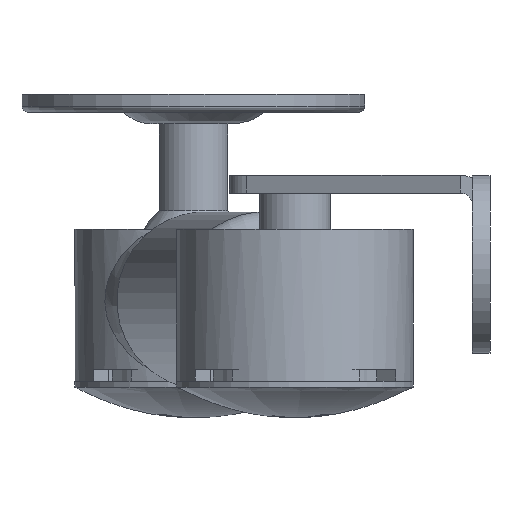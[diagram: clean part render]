
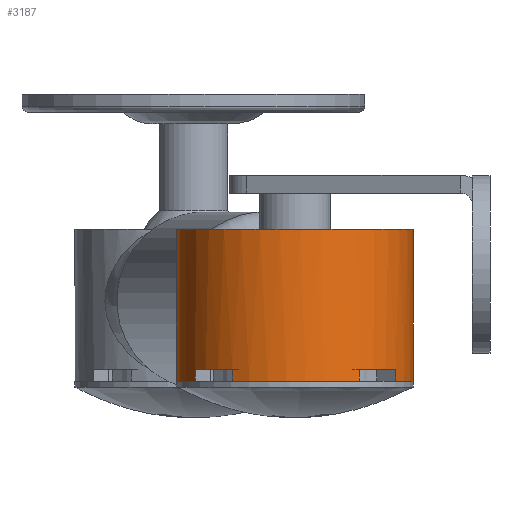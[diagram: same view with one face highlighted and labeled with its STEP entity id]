
A CAD part, front view. The second image highlights one B-rep face of the part: STEP entity #3187.
In plain terms, the highlighted cylindrical face has radius 10 mm (diameter 20 mm), a partial arc.
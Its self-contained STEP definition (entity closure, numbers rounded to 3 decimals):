
#360=FACE_OUTER_BOUND('',#564,.T.);
#564=EDGE_LOOP('',(#2786,#2787,#2788,#2789,#2790,#2791,#2792,#2793,#2794,
#2795,#2796,#2797,#2798,#2799,#2800,#2801,#2802,#2803,#2804,#2805));
#691=CIRCLE('',#3475,10.);
#692=CIRCLE('',#3480,10.);
#693=CIRCLE('',#3485,10.);
#694=CIRCLE('',#3490,10.);
#695=CIRCLE('',#3492,10.);
#696=CIRCLE('',#3493,10.);
#697=CIRCLE('',#3494,10.);
#698=CIRCLE('',#3495,10.);
#699=CIRCLE('',#3496,10.);
#702=CIRCLE('',#3503,10.);
#822=B_SPLINE_CURVE_WITH_KNOTS('',3,(#5758,#5759,#5760,#5761,#5762,#5763,
#5764,#5765,#5766,#5767,#5768,#5769,#5770,#5771,#5772,#5773,#5774,#5775,
#5776,#5777,#5778),.UNSPECIFIED.,.F.,.F.,(4,2,2,2,2,3,2,2,2,4),(-1.05,
-0.905,-0.62,-0.31,-0.155,
0.,0.155,0.31,0.62,0.804),
 .UNSPECIFIED.);
#823=B_SPLINE_CURVE_WITH_KNOTS('',3,(#5784,#5785,#5786,#5787,#5788,#5789,
#5790,#5791,#5792,#5793,#5794,#5795,#5796,#5797,#5798,#5799,#5800,#5801,
#5802,#5803),.UNSPECIFIED.,.F.,.F.,(4,2,2,2,2,2,2,2,2,4),(-3.184,
-3.,-2.69,-2.535,-2.38,
-2.225,-2.07,-1.76,-1.475,
-1.33),.UNSPECIFIED.);
#967=LINE('',#5888,#1207);
#971=LINE('',#5897,#1211);
#977=LINE('',#5911,#1217);
#981=LINE('',#5920,#1221);
#987=LINE('',#5934,#1227);
#991=LINE('',#5943,#1231);
#1000=LINE('',#5971,#1240);
#1003=LINE('',#5977,#1243);
#1207=VECTOR('',#4181,10.);
#1211=VECTOR('',#4187,10.);
#1217=VECTOR('',#4201,10.);
#1221=VECTOR('',#4207,10.);
#1227=VECTOR('',#4221,10.);
#1231=VECTOR('',#4227,10.);
#1240=VECTOR('',#4260,10.);
#1243=VECTOR('',#4265,10.);
#1502=VERTEX_POINT('',#5753);
#1503=VERTEX_POINT('',#5757);
#1504=VERTEX_POINT('',#5779);
#1505=VERTEX_POINT('',#5783);
#1523=VERTEX_POINT('',#5886);
#1524=VERTEX_POINT('',#5887);
#1527=VERTEX_POINT('',#5895);
#1528=VERTEX_POINT('',#5896);
#1531=VERTEX_POINT('',#5909);
#1532=VERTEX_POINT('',#5910);
#1535=VERTEX_POINT('',#5918);
#1536=VERTEX_POINT('',#5919);
#1539=VERTEX_POINT('',#5932);
#1540=VERTEX_POINT('',#5933);
#1543=VERTEX_POINT('',#5941);
#1544=VERTEX_POINT('',#5942);
#1547=VERTEX_POINT('',#5958);
#1550=VERTEX_POINT('',#5964);
#1551=VERTEX_POINT('',#5970);
#1553=VERTEX_POINT('',#5976);
#1887=EDGE_CURVE('',#1503,#1502,#822,.T.);
#1889=EDGE_CURVE('',#1505,#1504,#823,.T.);
#1930=EDGE_CURVE('',#1505,#1502,#691,.T.);
#1931=EDGE_CURVE('',#1523,#1524,#967,.T.);
#1935=EDGE_CURVE('',#1527,#1528,#971,.T.);
#1941=EDGE_CURVE('',#1528,#1523,#692,.T.);
#1942=EDGE_CURVE('',#1531,#1532,#977,.T.);
#1946=EDGE_CURVE('',#1535,#1536,#981,.T.);
#1952=EDGE_CURVE('',#1536,#1531,#693,.T.);
#1953=EDGE_CURVE('',#1539,#1540,#987,.T.);
#1957=EDGE_CURVE('',#1543,#1544,#991,.T.);
#1963=EDGE_CURVE('',#1544,#1539,#694,.T.);
#1964=EDGE_CURVE('',#1527,#1532,#695,.T.);
#1965=EDGE_CURVE('',#1535,#1540,#696,.T.);
#1966=EDGE_CURVE('',#1543,#1504,#697,.T.);
#1967=EDGE_CURVE('',#1503,#1547,#698,.T.);
#1971=EDGE_CURVE('',#1550,#1524,#699,.T.);
#1974=EDGE_CURVE('',#1551,#1547,#1000,.T.);
#1977=EDGE_CURVE('',#1550,#1553,#1003,.T.);
#1981=EDGE_CURVE('',#1553,#1551,#702,.T.);
#2786=ORIENTED_EDGE('',*,*,#1931,.T.);
#2787=ORIENTED_EDGE('',*,*,#1971,.F.);
#2788=ORIENTED_EDGE('',*,*,#1977,.T.);
#2789=ORIENTED_EDGE('',*,*,#1981,.T.);
#2790=ORIENTED_EDGE('',*,*,#1974,.T.);
#2791=ORIENTED_EDGE('',*,*,#1967,.F.);
#2792=ORIENTED_EDGE('',*,*,#1887,.T.);
#2793=ORIENTED_EDGE('',*,*,#1930,.F.);
#2794=ORIENTED_EDGE('',*,*,#1889,.T.);
#2795=ORIENTED_EDGE('',*,*,#1966,.F.);
#2796=ORIENTED_EDGE('',*,*,#1957,.T.);
#2797=ORIENTED_EDGE('',*,*,#1963,.T.);
#2798=ORIENTED_EDGE('',*,*,#1953,.T.);
#2799=ORIENTED_EDGE('',*,*,#1965,.F.);
#2800=ORIENTED_EDGE('',*,*,#1946,.T.);
#2801=ORIENTED_EDGE('',*,*,#1952,.T.);
#2802=ORIENTED_EDGE('',*,*,#1942,.T.);
#2803=ORIENTED_EDGE('',*,*,#1964,.F.);
#2804=ORIENTED_EDGE('',*,*,#1935,.T.);
#2805=ORIENTED_EDGE('',*,*,#1941,.T.);
#3028=CYLINDRICAL_SURFACE('',#3509,10.);
#3187=ADVANCED_FACE('',(#360),#3028,.T.);
#3475=AXIS2_PLACEMENT_3D('',#5884,#4177,#4178);
#3480=AXIS2_PLACEMENT_3D('',#5907,#4197,#4198);
#3485=AXIS2_PLACEMENT_3D('',#5930,#4217,#4218);
#3490=AXIS2_PLACEMENT_3D('',#5953,#4237,#4238);
#3492=AXIS2_PLACEMENT_3D('',#5955,#4241,#4242);
#3493=AXIS2_PLACEMENT_3D('',#5956,#4243,#4244);
#3494=AXIS2_PLACEMENT_3D('',#5957,#4245,#4246);
#3495=AXIS2_PLACEMENT_3D('',#5959,#4247,#4248);
#3496=AXIS2_PLACEMENT_3D('',#5966,#4252,#4253);
#3503=AXIS2_PLACEMENT_3D('',#5984,#4273,#4274);
#3509=AXIS2_PLACEMENT_3D('',#5991,#4285,#4286);
#4177=DIRECTION('center_axis',(0.,1.,0.));
#4178=DIRECTION('ref_axis',(1.,0.,0.));
#4181=DIRECTION('',(0.,-1.,0.));
#4187=DIRECTION('',(0.,1.,0.));
#4197=DIRECTION('center_axis',(0.,1.,0.));
#4198=DIRECTION('ref_axis',(1.,0.,0.));
#4201=DIRECTION('',(0.,-1.,0.));
#4207=DIRECTION('',(0.,1.,0.));
#4217=DIRECTION('center_axis',(0.,1.,0.));
#4218=DIRECTION('ref_axis',(1.,0.,0.));
#4221=DIRECTION('',(0.,-1.,0.));
#4227=DIRECTION('',(0.,1.,0.));
#4237=DIRECTION('center_axis',(0.,1.,0.));
#4238=DIRECTION('ref_axis',(1.,0.,0.));
#4241=DIRECTION('center_axis',(0.,-1.,0.));
#4242=DIRECTION('ref_axis',(1.,0.,0.));
#4243=DIRECTION('center_axis',(0.,-1.,0.));
#4244=DIRECTION('ref_axis',(1.,0.,0.));
#4245=DIRECTION('center_axis',(0.,-1.,0.));
#4246=DIRECTION('ref_axis',(1.,0.,0.));
#4247=DIRECTION('center_axis',(0.,-1.,0.));
#4248=DIRECTION('ref_axis',(1.,0.,0.));
#4252=DIRECTION('center_axis',(0.,-1.,0.));
#4253=DIRECTION('ref_axis',(1.,0.,0.));
#4260=DIRECTION('',(0.,-1.,0.));
#4265=DIRECTION('',(0.,1.,0.));
#4273=DIRECTION('center_axis',(0.,1.,0.));
#4274=DIRECTION('ref_axis',(1.,0.,0.));
#4285=DIRECTION('center_axis',(0.,1.,0.));
#4286=DIRECTION('ref_axis',(1.,0.,0.));
#5753=CARTESIAN_POINT('',(9.255,12.8,3.788));
#5757=CARTESIAN_POINT('',(9.899,0.,1.421));
#5758=CARTESIAN_POINT('Ctrl Pts',(9.899,0.,
1.421));
#5759=CARTESIAN_POINT('Ctrl Pts',(9.828,0.086,1.911));
#5760=CARTESIAN_POINT('Ctrl Pts',(9.721,0.217,2.396));
#5761=CARTESIAN_POINT('Ctrl Pts',(9.312,0.725,3.767));
#5762=CARTESIAN_POINT('Ctrl Pts',(8.918,1.221,4.589));
#5763=CARTESIAN_POINT('Ctrl Pts',(8.071,2.373,5.964));
#5764=CARTESIAN_POINT('Ctrl Pts',(7.541,3.127,6.599));
#5765=CARTESIAN_POINT('Ctrl Pts',(6.867,4.401,7.277));
#5766=CARTESIAN_POINT('Ctrl Pts',(6.664,4.85,7.458));
#5767=CARTESIAN_POINT('Ctrl Pts',(6.37,5.791,7.711));
#5768=CARTESIAN_POINT('Ctrl Pts',(6.28,6.284,7.782));
#5769=CARTESIAN_POINT('Ctrl Pts',(6.28,6.8,7.782));
#5770=CARTESIAN_POINT('Ctrl Pts',(6.28,7.316,7.782));
#5771=CARTESIAN_POINT('Ctrl Pts',(6.37,7.809,7.711));
#5772=CARTESIAN_POINT('Ctrl Pts',(6.664,8.75,7.458));
#5773=CARTESIAN_POINT('Ctrl Pts',(6.867,9.199,7.277));
#5774=CARTESIAN_POINT('Ctrl Pts',(7.541,10.473,6.599));
#5775=CARTESIAN_POINT('Ctrl Pts',(8.071,11.227,5.964));
#5776=CARTESIAN_POINT('Ctrl Pts',(8.775,12.183,4.822));
#5777=CARTESIAN_POINT('Ctrl Pts',(9.033,12.518,4.33));
#5778=CARTESIAN_POINT('Ctrl Pts',(9.255,12.8,3.788));
#5779=CARTESIAN_POINT('',(9.899,0.,-1.421));
#5783=CARTESIAN_POINT('',(9.255,12.8,-3.788));
#5784=CARTESIAN_POINT('Ctrl Pts',(9.255,12.8,-3.788));
#5785=CARTESIAN_POINT('Ctrl Pts',(9.033,12.518,-4.33));
#5786=CARTESIAN_POINT('Ctrl Pts',(8.775,12.183,-4.822));
#5787=CARTESIAN_POINT('Ctrl Pts',(8.071,11.227,-5.964));
#5788=CARTESIAN_POINT('Ctrl Pts',(7.541,10.473,-6.599));
#5789=CARTESIAN_POINT('Ctrl Pts',(6.867,9.199,-7.277));
#5790=CARTESIAN_POINT('Ctrl Pts',(6.664,8.75,-7.458));
#5791=CARTESIAN_POINT('Ctrl Pts',(6.37,7.809,-7.711));
#5792=CARTESIAN_POINT('Ctrl Pts',(6.28,7.316,-7.782));
#5793=CARTESIAN_POINT('Ctrl Pts',(6.28,6.284,-7.782));
#5794=CARTESIAN_POINT('Ctrl Pts',(6.37,5.791,-7.711));
#5795=CARTESIAN_POINT('Ctrl Pts',(6.664,4.85,-7.458));
#5796=CARTESIAN_POINT('Ctrl Pts',(6.867,4.401,-7.277));
#5797=CARTESIAN_POINT('Ctrl Pts',(7.541,3.127,-6.599));
#5798=CARTESIAN_POINT('Ctrl Pts',(8.071,2.373,-5.964));
#5799=CARTESIAN_POINT('Ctrl Pts',(8.918,1.221,-4.589));
#5800=CARTESIAN_POINT('Ctrl Pts',(9.312,0.725,-3.767));
#5801=CARTESIAN_POINT('Ctrl Pts',(9.721,0.217,-2.396));
#5802=CARTESIAN_POINT('Ctrl Pts',(9.828,0.086,-1.911));
#5803=CARTESIAN_POINT('Ctrl Pts',(9.899,0.,
-1.421));
#5884=CARTESIAN_POINT('Origin',(0.,12.8,0.));
#5886=CARTESIAN_POINT('',(-5.667,1.,8.239));
#5887=CARTESIAN_POINT('',(-5.667,0.,8.239));
#5888=CARTESIAN_POINT('',(-5.667,0.,8.239));
#5895=CARTESIAN_POINT('',(-8.654,0.,5.011));
#5896=CARTESIAN_POINT('',(-8.654,1.,5.011));
#5897=CARTESIAN_POINT('',(-8.654,0.,5.011));
#5907=CARTESIAN_POINT('Origin',(0.,1.,0.));
#5909=CARTESIAN_POINT('',(-8.239,1.,-5.667));
#5910=CARTESIAN_POINT('',(-8.239,0.,-5.667));
#5911=CARTESIAN_POINT('',(-8.239,0.,-5.667));
#5918=CARTESIAN_POINT('',(-5.011,0.,-8.654));
#5919=CARTESIAN_POINT('',(-5.011,1.,-8.654));
#5920=CARTESIAN_POINT('',(-5.011,0.,-8.654));
#5930=CARTESIAN_POINT('Origin',(0.,1.,0.));
#5932=CARTESIAN_POINT('',(5.667,1.,-8.239));
#5933=CARTESIAN_POINT('',(5.667,0.,-8.239));
#5934=CARTESIAN_POINT('',(5.667,0.,-8.239));
#5941=CARTESIAN_POINT('',(8.654,0.,-5.011));
#5942=CARTESIAN_POINT('',(8.654,1.,-5.011));
#5943=CARTESIAN_POINT('',(8.654,0.,-5.011));
#5953=CARTESIAN_POINT('Origin',(0.,1.,0.));
#5955=CARTESIAN_POINT('Origin',(0.,0.,0.));
#5956=CARTESIAN_POINT('Origin',(0.,0.,0.));
#5957=CARTESIAN_POINT('Origin',(0.,0.,0.));
#5958=CARTESIAN_POINT('',(8.239,0.,5.667));
#5959=CARTESIAN_POINT('Origin',(0.,0.,0.));
#5964=CARTESIAN_POINT('',(5.011,0.,8.654));
#5966=CARTESIAN_POINT('Origin',(0.,0.,0.));
#5970=CARTESIAN_POINT('',(8.239,1.,5.667));
#5971=CARTESIAN_POINT('',(8.239,0.,5.667));
#5976=CARTESIAN_POINT('',(5.011,1.,8.654));
#5977=CARTESIAN_POINT('',(5.011,0.,8.654));
#5984=CARTESIAN_POINT('Origin',(0.,1.,0.));
#5991=CARTESIAN_POINT('Origin',(0.,0.,0.));
